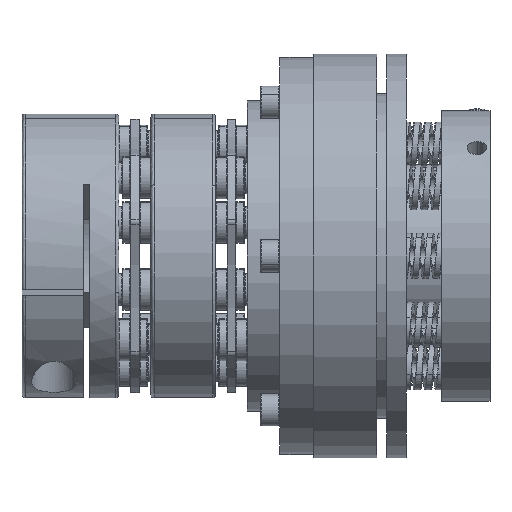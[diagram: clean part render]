
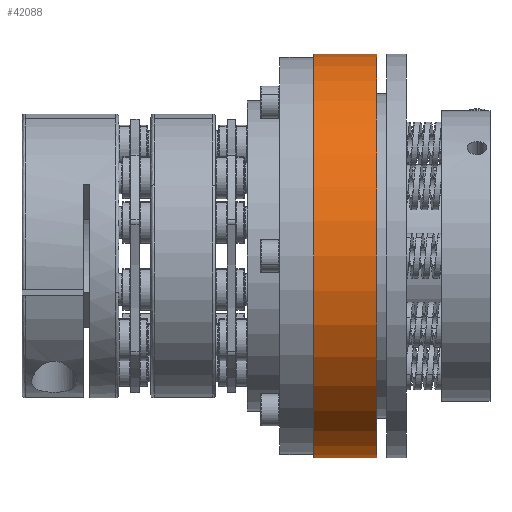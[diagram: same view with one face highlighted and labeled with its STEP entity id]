
A CAD part, front view. The second image highlights one B-rep face of the part: STEP entity #42088.
In plain terms, the highlighted cylindrical face has radius 62.5 mm (diameter 125 mm), a partial arc.
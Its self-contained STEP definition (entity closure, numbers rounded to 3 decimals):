
#701 = CARTESIAN_POINT ( 'NONE',  ( -54.6, 0., 62.5 ) ) ;
#8751 = EDGE_CURVE ( 'NONE', #127812, #34142, #56496, .T. ) ;
#10644 = LINE ( 'NONE', #107701, #41027 ) ;
#15969 = CARTESIAN_POINT ( 'NONE',  ( -75.1, 0., 0. ) ) ;
#16459 = DIRECTION ( 'NONE',  ( -1., 0., 0. ) ) ;
#31104 = CARTESIAN_POINT ( 'NONE',  ( -35.1, 0., 0. ) ) ;
#34142 = VERTEX_POINT ( 'NONE', #34622 ) ;
#34622 = CARTESIAN_POINT ( 'NONE',  ( -35.1, 0., 62.5 ) ) ;
#38654 = CARTESIAN_POINT ( 'NONE',  ( -54.6, 0., -62.5 ) ) ;
#41027 = VECTOR ( 'NONE', #74243, 1000. ) ;
#41200 = CARTESIAN_POINT ( 'NONE',  ( -75.1, 0., 62.5 ) ) ;
#42088 = ADVANCED_FACE ( 'NONE', ( #125190 ), #47569, .T. ) ;
#45476 = EDGE_CURVE ( 'NONE', #127812, #56628, #10644, .T. ) ;
#47569 = CYLINDRICAL_SURFACE ( 'NONE', #121467, 62.5 ) ;
#48149 = DIRECTION ( 'NONE',  ( 0., 0., 1. ) ) ;
#55298 = VERTEX_POINT ( 'NONE', #701 ) ;
#56496 = CIRCLE ( 'NONE', #117633, 62.5 ) ;
#56628 = VERTEX_POINT ( 'NONE', #38654 ) ;
#57981 = ORIENTED_EDGE ( 'NONE', *, *, #8751, .T. ) ;
#58191 = VECTOR ( 'NONE', #137834, 1000. ) ;
#66817 = CARTESIAN_POINT ( 'NONE',  ( -35.1, 0., -62.5 ) ) ;
#70682 = CIRCLE ( 'NONE', #135297, 62.5 ) ;
#74243 = DIRECTION ( 'NONE',  ( -1., 0., 0. ) ) ;
#90831 = ORIENTED_EDGE ( 'NONE', *, *, #122097, .T. ) ;
#97417 = ORIENTED_EDGE ( 'NONE', *, *, #45476, .F. ) ;
#101788 = CARTESIAN_POINT ( 'NONE',  ( -54.6, 0., 0. ) ) ;
#104708 = DIRECTION ( 'NONE',  ( 0., 0., 1. ) ) ;
#107701 = CARTESIAN_POINT ( 'NONE',  ( -75.1, 0., -62.5 ) ) ;
#112660 = DIRECTION ( 'NONE',  ( -1., 0., 0. ) ) ;
#115465 = EDGE_CURVE ( 'NONE', #56628, #55298, #70682, .T. ) ;
#117633 = AXIS2_PLACEMENT_3D ( 'NONE', #31104, #138217, #104708 ) ;
#121467 = AXIS2_PLACEMENT_3D ( 'NONE', #15969, #16459, #48149 ) ;
#122097 = EDGE_CURVE ( 'NONE', #34142, #55298, #137603, .T. ) ;
#125190 = FACE_OUTER_BOUND ( 'NONE', #132771, .T. ) ;
#125378 = DIRECTION ( 'NONE',  ( 0., 0., 1. ) ) ;
#127812 = VERTEX_POINT ( 'NONE', #66817 ) ;
#130875 = ORIENTED_EDGE ( 'NONE', *, *, #115465, .F. ) ;
#132771 = EDGE_LOOP ( 'NONE', ( #97417, #57981, #90831, #130875 ) ) ;
#135297 = AXIS2_PLACEMENT_3D ( 'NONE', #101788, #112660, #125378 ) ;
#137603 = LINE ( 'NONE', #41200, #58191 ) ;
#137834 = DIRECTION ( 'NONE',  ( -1., 0., 0. ) ) ;
#138217 = DIRECTION ( 'NONE',  ( -1., 0., 0. ) ) ;
